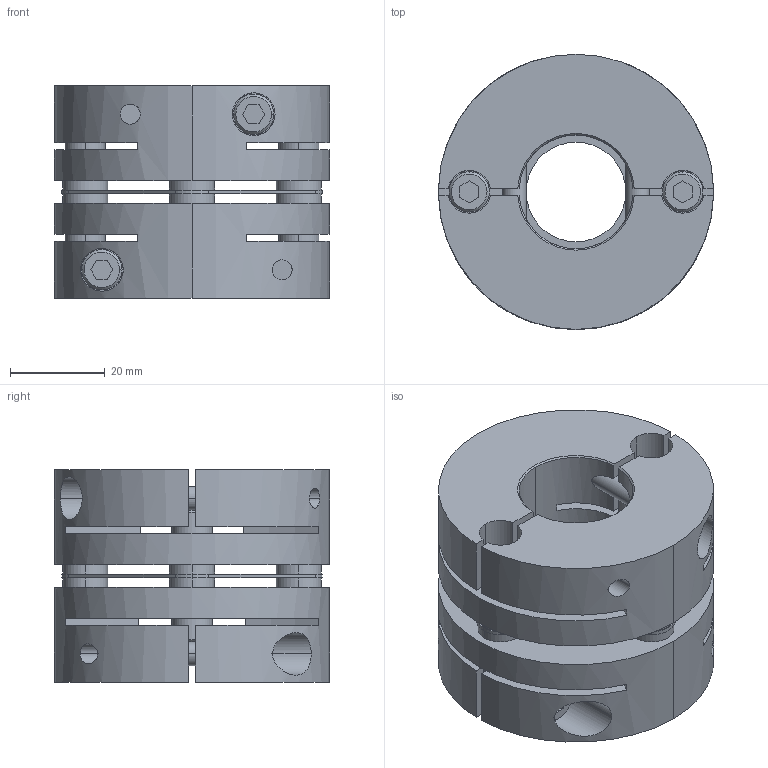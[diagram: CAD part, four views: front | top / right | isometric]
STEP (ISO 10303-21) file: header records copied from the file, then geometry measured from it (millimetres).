
FILE_DESCRIPTION((''),'2;1');
FILE_NAME('LAS-58C-24×25.stp','2015-10-15T14:57:34',(''),(''),'AutoCAD STEP 2000i','AutoCAD 2000i',', , ');
FILE_SCHEMA(('CONFIG_CONTROL_DESIGN'));
Length unit declared in the file: millimetre
Products named in the file (6): LAS-58C-12×19; 忣兜1; LA-5802-D19; LA-5802-D12-1; LA-5802-D12; LAS58-ITA
Assembly tree (5 placements, depth 2):
  LAS-58C-12×19
    忣兜1
    LA-5802-D19
    LA-5802-D12-1
    LA-5802-D12
    LAS58-ITA
Bounding box: 58 x 58 x 44.8 mm (x, y, z)
Volume: 78366.2 mm3; surface area: 32211.3 mm2
Topology: 1 solids, 1 shells, 238 faces, 630 edges, 412 vertices
Faces by surface type: plane 114, cylinder 96, cone 28
Entity records: 8425 total; most frequent: CARTESIAN_POINT 2144, DIRECTION 1320, ORIENTED_EDGE 1264, EDGE_CURVE 632, AXIS2_PLACEMENT_3D 484, VERTEX_POINT 412, VECTOR 352, LINE 352
